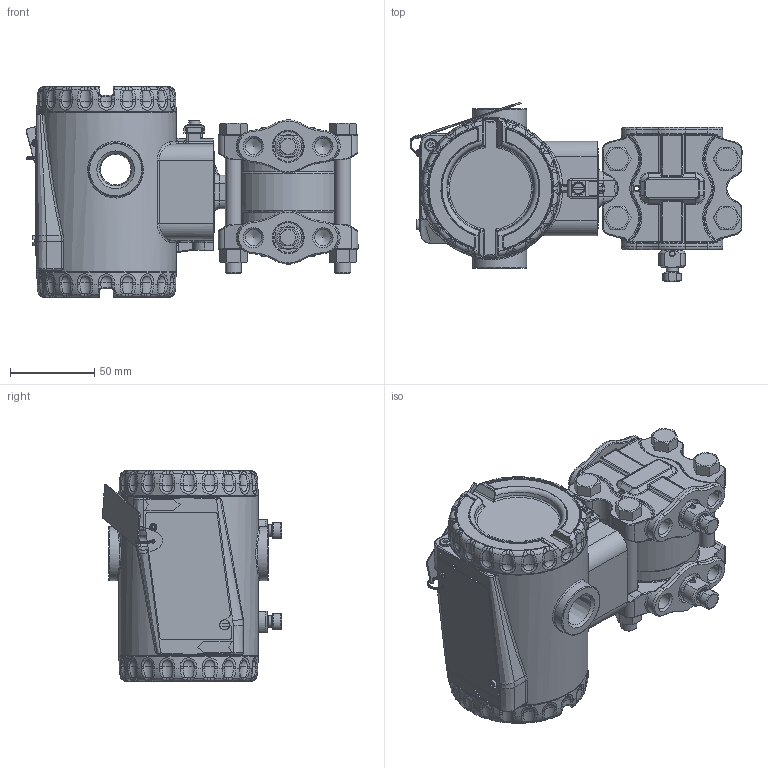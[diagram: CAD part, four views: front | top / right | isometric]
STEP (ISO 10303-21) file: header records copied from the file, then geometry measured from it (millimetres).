
FILE_DESCRIPTION(/* description */ (''),/* implementation_level */ '2;1');
FILE_NAME(/* name */ 'F:\Area\Desenvolvimento_2\Projects\Sensor\projetos\LD400-3d\dimensionais 3D clientes\LD400H0-3 1-4NPT purga oposta.stp',/* time_stamp */ '2023-02-02T11:30:06-03:00',/* author */ ('inventor02'),/* organization */ (''),/* preprocessor_version */ 'ST-DEVELOPER v17',/* originating_system */ 'Autodesk Inventor 2019',/* authorisation */ '');
FILE_SCHEMA (('CONFIG_CONTROL_DESIGN'));
Products named in the file (29): LD400H0-3 1-4NPT purga oposta; Carcaça 400 com tampas e plaqueta sem letras; 101-D-0845-05 carcaça LD400 sem letras; 101-B-3614-03-tampa 400 sem letras; Tampa visor 400 montada sem letras; 101-B-3612-05 tampa visor 400 sem letras; 101-A-6107; oring 2034; 00034775-0; WHW_250; DIN 915 - M6 x 10; Chapa aterramento externo; 201-A-1771-02 inserto terra recartilhado; AS 1969 - ST4,2; ISO 1207 - M4 x 8; ANSI B18.3.1M - M4x0,7 x 8; Subconjunto plaqueta 400; plaqueta 400 em branco; Parafuso da Plaqueta; Rebite da Plaqueta; 096-A-0169-03; 101-A-0502-01; diferencial FX0-3 purga oposta; involucro fx0-3 apos a usinagem final; 075-B-0046-purgador; flange diferencial std sem purga; Paraf. 3-8 x 16 UNC; Porca 3-8 x 16 UNC; Sangria
Assembly tree (38 placements, depth 4):
  LD400H0-3 1-4NPT purga oposta
    Carcaça 400 com tampas e plaqueta sem letras
      101-D-0845-05 carcaça LD400 sem letras
      101-B-3614-03-tampa 400 sem letras
      Tampa visor 400 montada sem letras
        101-B-3612-05 tampa visor 400 sem letras
        101-A-6107
        oring 2034
        00034775-0
        WHW_250
      DIN 915 - M6 x 10
      Chapa aterramento externo
      201-A-1771-02 inserto terra recartilhado
      AS 1969 - ST4,2
      ISO 1207 - M4 x 8
      ANSI B18.3.1M - M4x0,7 x 8  x2
      Subconjunto plaqueta 400
        plaqueta 400 em branco
        Parafuso da Plaqueta
        Rebite da Plaqueta
        096-A-0169-03
        101-A-0502-01
    diferencial FX0-3 purga oposta
      involucro fx0-3 apos a usinagem final
      flange diferencial std sem purga  x2
      075-B-0046-purgador  x2
      Paraf. 3-8 x 16 UNC  x4
      Porca 3-8 x 16 UNC  x4
      Sangria  x2
Bounding box: 197.25 x 106.39 x 125 mm (x, y, z)
Volume: 614183 mm3; surface area: 235622.5 mm2
Topology: 34 solids, 34 shells, 2625 faces, 6367 edges, 3799 vertices
Faces by surface type: plane 651, cylinder 639, bspline 611, torus 440, cone 213, sphere 71
Full cylindrical faces by diameter (mm): 2 x2, 2.1 x1, 2.2 x1, 2.459 x3, 2.7 x1, 3 x7, 3.242 x3, 3.571 x1, 4 x4, 4.3 x2, 4.4 x1, 4.917 x1, 5.5 x6, 6 x2, 6.1 x2, 6.2 x1, 6.8 x2, 7 x4, 7.6 x2, 7.798 x4, 8 x2, 9.525 x4, 9.728 x8, 10.5 x8, 10.719 x4, 13.8 x2, 14 x1, 18.3 x2, 18.5 x4, 32 x2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
Entity records: 80555 total; most frequent: CARTESIAN_POINT 31549, ORIENTED_EDGE 10210, DIRECTION 9943, EDGE_CURVE 5105, AXIS2_PLACEMENT_3D 4200, VERTEX_POINT 3067, CIRCLE 2405, EDGE_LOOP 2210
